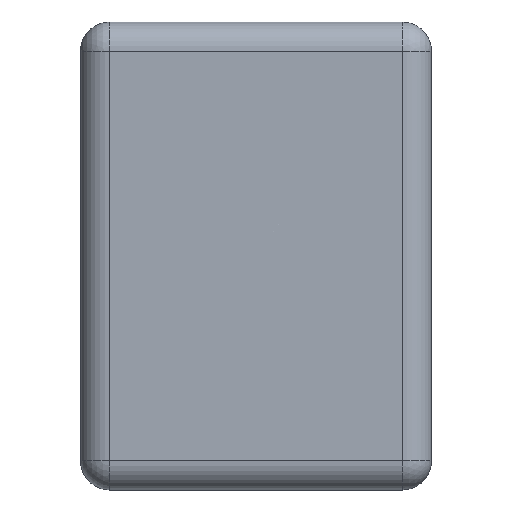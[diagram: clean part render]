
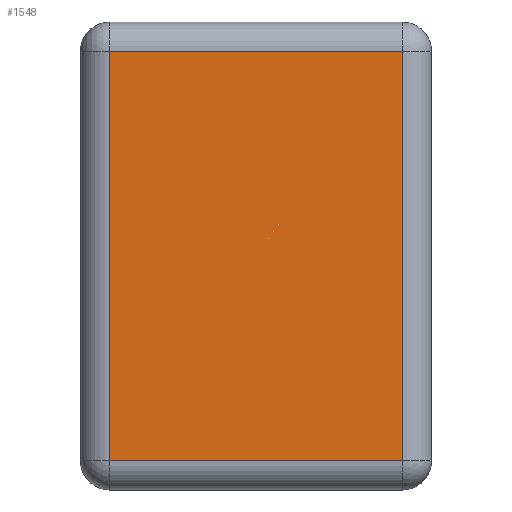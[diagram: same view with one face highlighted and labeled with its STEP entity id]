
A CAD part, left-side view. The second image highlights one B-rep face of the part: STEP entity #1548.
In plain terms, the highlighted planar face has unit normal (-1, 0, 0).
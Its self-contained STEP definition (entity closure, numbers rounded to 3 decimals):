
#389 = EDGE_LOOP ( 'NONE', ( #527, #4169, #1421, #3314 ) ) ;
#500 = VERTEX_POINT ( 'NONE', #5049 ) ;
#527 = ORIENTED_EDGE ( 'NONE', *, *, #5028, .F. ) ;
#822 = VECTOR ( 'NONE', #1014, 1000. ) ;
#825 = CARTESIAN_POINT ( 'NONE',  ( -10., -5., -1. ) ) ;
#902 = LINE ( 'NONE', #2969, #4161 ) ;
#978 = VERTEX_POINT ( 'NONE', #825 ) ;
#1014 = DIRECTION ( 'NONE',  ( 0., 0., 1. ) ) ;
#1421 = ORIENTED_EDGE ( 'NONE', *, *, #1773, .T. ) ;
#1425 = CARTESIAN_POINT ( 'NONE',  ( -10., -5., -16. ) ) ;
#1465 = DIRECTION ( 'NONE',  ( 0., 0., 1. ) ) ;
#1548 = ADVANCED_FACE ( 'NONE', ( #5270 ), #3129, .T. ) ;
#1675 = VERTEX_POINT ( 'NONE', #3056 ) ;
#1752 = LINE ( 'NONE', #4714, #2490 ) ;
#1773 = EDGE_CURVE ( 'NONE', #1675, #978, #3060, .T. ) ;
#2490 = VECTOR ( 'NONE', #5139, 1000. ) ;
#2969 = CARTESIAN_POINT ( 'NONE',  ( -10., -5., -15. ) ) ;
#3056 = CARTESIAN_POINT ( 'NONE',  ( -10., -5., -15. ) ) ;
#3060 = LINE ( 'NONE', #1425, #822 ) ;
#3129 = PLANE ( 'NONE',  #4901 ) ;
#3185 = VECTOR ( 'NONE', #3978, 1000. ) ;
#3314 = ORIENTED_EDGE ( 'NONE', *, *, #3597, .T. ) ;
#3408 = DIRECTION ( 'NONE',  ( 0., -1., 0. ) ) ;
#3597 = EDGE_CURVE ( 'NONE', #978, #500, #4457, .T. ) ;
#3741 = CARTESIAN_POINT ( 'NONE',  ( -10., 5., -15. ) ) ;
#3978 = DIRECTION ( 'NONE',  ( 0., 1., 0. ) ) ;
#4001 = DIRECTION ( 'NONE',  ( -1., 0., 0. ) ) ;
#4161 = VECTOR ( 'NONE', #3408, 1000. ) ;
#4169 = ORIENTED_EDGE ( 'NONE', *, *, #4452, .T. ) ;
#4452 = EDGE_CURVE ( 'NONE', #4896, #1675, #902, .T. ) ;
#4457 = LINE ( 'NONE', #4813, #3185 ) ;
#4714 = CARTESIAN_POINT ( 'NONE',  ( -10., 5., -16. ) ) ;
#4813 = CARTESIAN_POINT ( 'NONE',  ( -10., -5., -1. ) ) ;
#4896 = VERTEX_POINT ( 'NONE', #3741 ) ;
#4901 = AXIS2_PLACEMENT_3D ( 'NONE', #5256, #4001, #1465 ) ;
#5028 = EDGE_CURVE ( 'NONE', #4896, #500, #1752, .T. ) ;
#5049 = CARTESIAN_POINT ( 'NONE',  ( -10., 5., -1. ) ) ;
#5139 = DIRECTION ( 'NONE',  ( 0., 0., 1. ) ) ;
#5256 = CARTESIAN_POINT ( 'NONE',  ( -10., -5., -16. ) ) ;
#5270 = FACE_OUTER_BOUND ( 'NONE', #389, .T. ) ;
